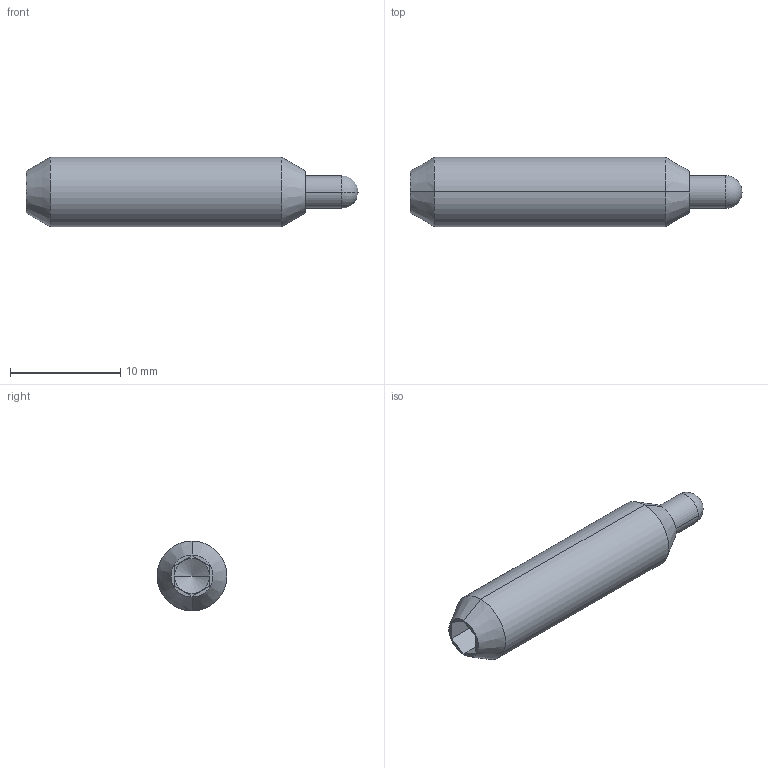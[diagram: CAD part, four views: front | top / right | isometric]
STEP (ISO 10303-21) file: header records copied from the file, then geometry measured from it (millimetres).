
FILE_DESCRIPTION (( 'STEP AP203' ), '1' );
FILE_NAME ('3B20.W272.step', '2009-10-12T14:00:23', ( 'Wixroyd' ), ( 'Wixroyd' ), 'SwSTEP 2.0', 'SolidWorks 2009', '' );
FILE_SCHEMA (( 'CONFIG_CONTROL_DESIGN' ));
Length unit declared in the file: inch
Products named in the file (3): Part1_3B20.W272; Part2_3B20.W272; 3B20.W272
Assembly tree (2 placements, depth 2):
  3B20.W272
    Part1_3B20.W272
    Part2_3B20.W272
Bounding box: 30.18 x 6.35 x 6.35 mm (x, y, z)
Volume: 550.6 mm3; surface area: 925.6 mm2
Topology: 2 solids, 2 shells, 43 faces, 92 edges, 52 vertices
Faces by surface type: plane 17, cylinder 12, cone 12, sphere 2
Entity records: 1413 total; most frequent: DIRECTION 220, CARTESIAN_POINT 184, ORIENTED_EDGE 172, EDGE_CURVE 86, AXIS2_PLACEMENT_3D 86, VERTEX_POINT 50, VECTOR 48, LINE 48
